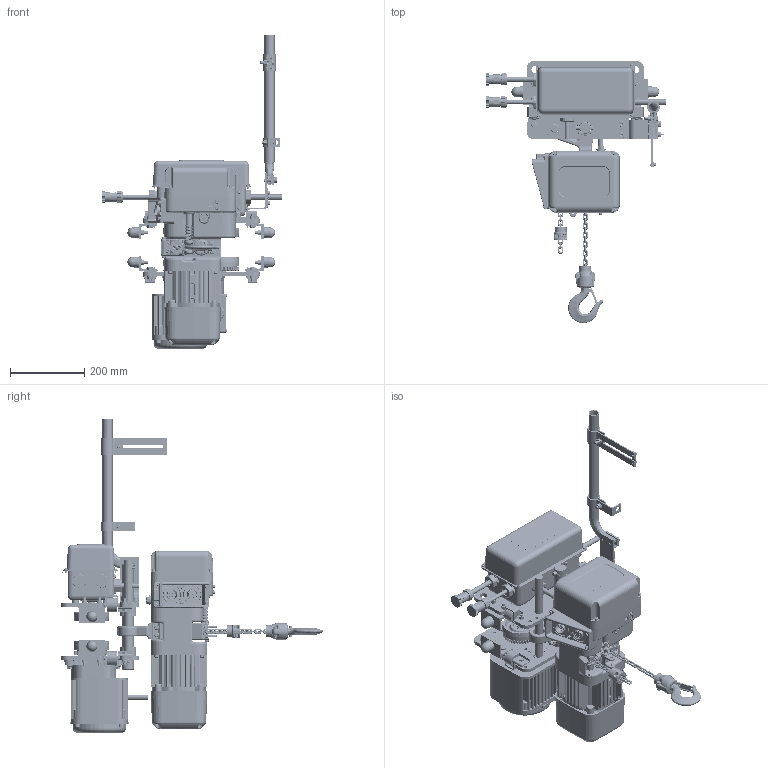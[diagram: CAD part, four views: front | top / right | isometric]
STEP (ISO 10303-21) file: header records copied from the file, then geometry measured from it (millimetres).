
FILE_DESCRIPTION (( 'STEP AP214' ), '1' );
FILE_NAME ('NER2M001H-L.STEP', '2026-08-05T19:02:06', ( '' ), ( '' ), 'SwSTEP 2.0', 'SolidWorks 2026', '' );
FILE_SCHEMA (( 'AUTOMOTIVE_DESIGN' ));
Length unit declared in the file: inch
Products named in the file (136): MS554010; ER2CS9121; MR2DS1768; MR1DS9324; ER2BHM01H9A6; ER2BS9104_ER2BS9104; MR1DS9325; MS561010; 9091252_B18.3.1M - 6 x 1.0 x 30 Hex SHCS -- 30CHX; E3S112003; MR1DS9421; ER2BS9103; hex nut style 1_am_9093424; E6F630010S; ECP2108AC; NER2001H_Motorized Trolley; MR1DS1211; MR1DS9218; MR1DS1493; single coil rectangular section spring washer_bsi_9012711; ECP6914AA; 90912134; ER2BS9338; 6302Z BEARING; MR1DS1491; ER2BH1011; hex cap screw_am_9093328; ER2CS9357; hex cap screw_am_9093329; 16-4 (MR2); MR1DS9491; single coil rectangular section spring washer_bsi_Rectangular section spring washer BS 4464 - 16 (Type B); ER2BH9011; ECP5924AB1; ER2BS9107; M6SE010S9102; MR1DS9248; MR2001L_4" FLANGE; MR1DS1481; ECP2304AD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
Assembly tree (331 placements, depth 6):
  NER2M001H-L
    MR2001L_4" FLANGE
      MR1DS5201
        MR1DS9201
        MR1DS9203  x2
        M6FE010S9113
      MR1DS5202
        MR1DS9202
        MR1DS9203  x2
        M6FE010S9114
      MSF115010_MSF115010
      MR1DS9634  x4
      hex cap screw_am_9093330  x8
      single coil rectangular section spring washer_bsi_9012711  x20
      hex nut style 1_am_9093424  x16
      MR1DS9631  x4
      MS006010  x4
      MR1DS1211_Reversed  x2
        MR1DS1211
        MR1DS9218
      MR1DS1211  x2
        MR1DS1211
        MR1DS9218
      MS1101010  x2
        M6SE010S9101
        6302Z BEARING
        9047242_9047242
      hex cap screw_am_9093329  x4
      MS1102010  x2
        M6SE010S9102
        radial ball bearing_68_am_AFBMA 20.1 - 03-15 - Full,SI,NC,Full_68
        basic internal retaining ring_am_B27.7M - 3BM1-42
      MR1DS9131_MR1DS9131
      9009446_9009446  x2
      MS161010
      T6G156020
      9009432_9009432
      hexagon slotted nut low_1 small_jis_T3P154020
      split pin (metric) as_9009414-5
      9047115_9047115  x4
      MS104010  x4
      6077801
        MR1DS93112
        MR1DS9324
        MR1DS9325
        MR1DS1301
        90912134  x4
        MS554010  x4
      9012513  x4
      hex cap screw_am_9093328  x4
      MR1DS9248
      70130XX_7013001
        MR1DS9411
        MR1DS9401_1 - 8 TON & 10 L TON
        MR1DS9421
        MS554010  x12
        MR2DS2811
          ECP5924AH
          MS527010
          MR2DI1811
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Bounding box: 483.84 x 703.66 x 841.28 mm (x, y, z)
Volume: 12907799.6 mm3; surface area: 2846337.7 mm2
Topology: 372 solids, 380 shells, 13369 faces, 35348 edges, 22993 vertices
Faces by surface type: plane 5798, cylinder 4282, cone 1288, torus 1167, bspline 747, sphere 87
Entity records: 341248 total; most frequent: CARTESIAN_POINT 119216, ORIENTED_EDGE 45680, DIRECTION 43455, EDGE_CURVE 22842, AXIS2_PLACEMENT_3D 15994, VERTEX_POINT 15204, VECTOR 11467, LINE 11467
